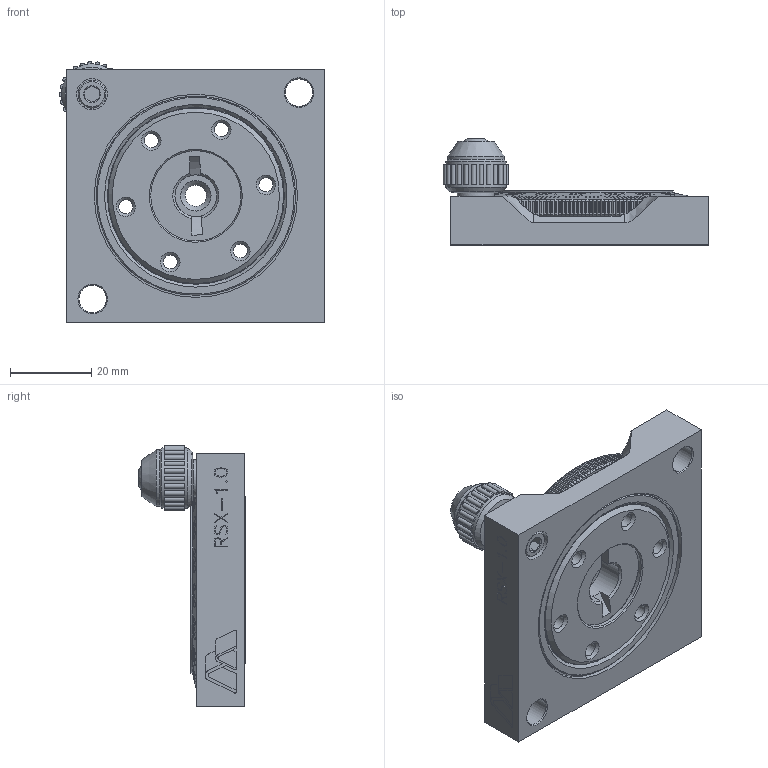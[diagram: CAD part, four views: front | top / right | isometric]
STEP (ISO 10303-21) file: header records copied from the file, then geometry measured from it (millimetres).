
FILE_DESCRIPTION (( 'STEP AP203' ), '1' );
FILE_NAME ('81210000E_step.STEP', '2026-01-07T17:04:57', ( '' ), ( '' ), 'SwSTEP 2.0', 'SolidWorks 2023', '' );
FILE_SCHEMA (( 'CONFIG_CONTROL_DESIGN' ));
Products named in the file (1): 81210000E_step
Bounding box: 65.39 x 26.16 x 64.25 mm (x, y, z)
Volume: 47595.5 mm3; surface area: 17660.9 mm2
Topology: 2 solids, 4 shells, 2717 faces, 7337 edges, 4758 vertices
Faces by surface type: plane 1539, cylinder 439, bspline 420, cone 317, sphere 1, torus 1
Full cylindrical faces by diameter (mm): 3.454 x7, 4.166 x1, 5.207 x1, 6.312 x1, 6.35 x1, 6.756 x2, 6.858 x1, 7.62 x1, 7.925 x1, 8.382 x1, 9.144 x1, 10.312 x1, 13.97 x1, 14.91 x1, 22.225 x1, 24.816 x1, 25.717 x1, 26.848 x1, 43.193 x1, 45.974 x1, 49.022 x1, 50.038 x1
Entity records: 106175 total; most frequent: CARTESIAN_POINT 44599, ORIENTED_EDGE 14502, DIRECTION 9958, EDGE_CURVE 7251, VERTEX_POINT 4737, AXIS2_PLACEMENT_3D 3471, B_SPLINE_CURVE_WITH_KNOTS 3058, LINE 3016
